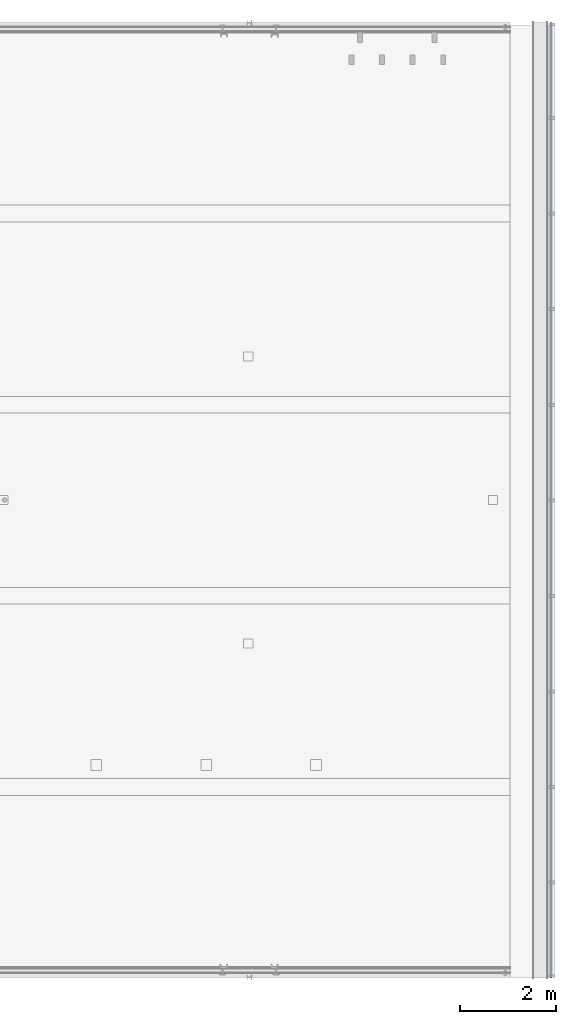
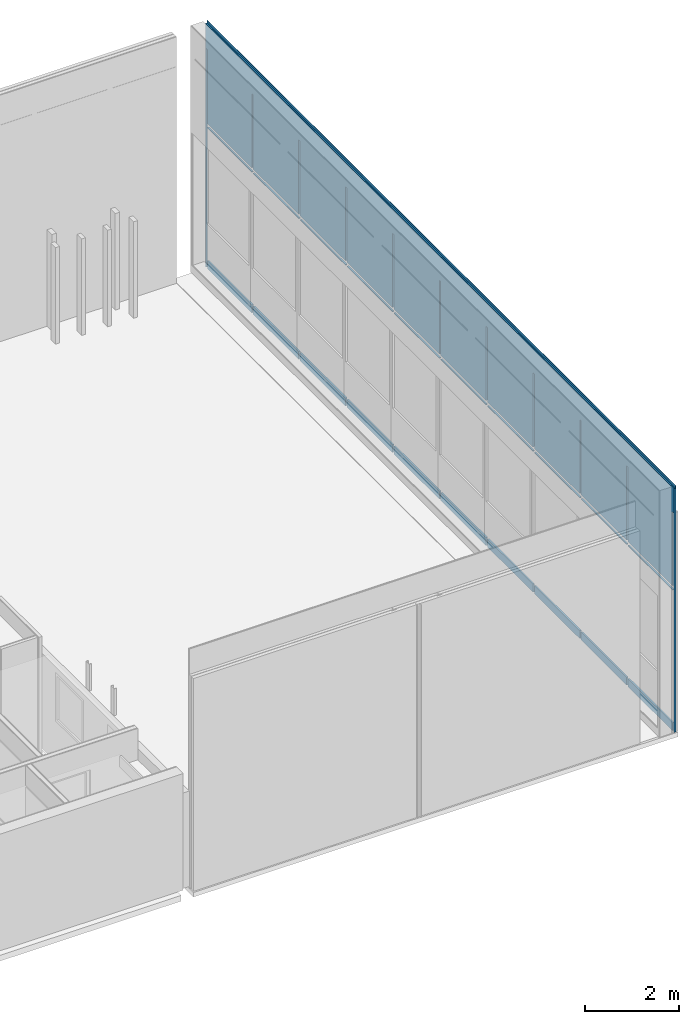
# One storey, part 21 of 35: 1 building element part, 10 openings, 1 element without a shape of its own.
"""IFC2X3 building model written with IfcOpenShell, lengths in millimetres."""

from ifc_helpers import new_model, entity, si_unit, converted_unit, derived_unit, money_unit, direction, frame, origin_with_axes, place, context, subcontext, project, spatial, faceted_brep, material, type_object, element, aggregate, save


model = new_model("IFC2X3")

# Units and contexts
model_context = context("Model", 3, precision=0.01, world=origin_with_axes(), true_north=direction((0.0, 1.0)))
body_context = subcontext(model_context, "Body", "Model", "MODEL_VIEW")
ifc_project = project(units=[si_unit("LENGTHUNIT", "METRE", prefix="MILLI"), si_unit("AREAUNIT", "SQUARE_METRE"), si_unit("VOLUMEUNIT", "CUBIC_METRE"), converted_unit("PLANEANGLEUNIT", "DEGREE", entity("IfcPlaneAngleMeasure", 0.0174532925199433), si_unit("PLANEANGLEUNIT", "RADIAN"), dimensions=[0, 0, 0, 0, 0, 0, 0]), money_unit("EUR"), converted_unit("TIMEUNIT", "Year", entity("IfcTimeMeasure", 31557600.0), si_unit("TIMEUNIT", "SECOND"), dimensions=[0, 0, 1, 0, 0, 0, 0]), si_unit("MASSUNIT", "GRAM", prefix="KILO"), si_unit("THERMODYNAMICTEMPERATUREUNIT", "DEGREE_CELSIUS"), si_unit("LUMINOUSINTENSITYUNIT", "LUMEN"), si_unit("ENERGYUNIT", "JOULE", prefix="MEGA"), derived_unit("THERMALCONDUCTANCEUNIT", [(si_unit("POWERUNIT", "WATT"), 1), (si_unit("LENGTHUNIT", "METRE"), -1), (si_unit("THERMODYNAMICTEMPERATUREUNIT", "KELVIN"), -1)]), derived_unit("SPECIFICHEATCAPACITYUNIT", [(si_unit("ENERGYUNIT", "JOULE"), 1), (si_unit("MASSUNIT", "GRAM", prefix="KILO"), -1), (si_unit("THERMODYNAMICTEMPERATUREUNIT", "KELVIN"), -1)]), derived_unit("MASSDENSITYUNIT", [(si_unit("MASSUNIT", "GRAM", prefix="KILO"), 1), (si_unit("VOLUMEUNIT", "CUBIC_METRE"), -1)])], contexts=[model_context])

# Site, building, storey
site_placement = place(None, origin_with_axes())
site = spatial("IfcSite", under=ifc_project, at=site_placement, Name="<site naam>", CompositionType="ELEMENT")
building_placement = place(site_placement, origin_with_axes())
building = spatial("IfcBuilding", under=site, at=building_placement, Name="<Naam gebouw>", CompositionType="ELEMENT")
storey_placement = place(building_placement, frame((0.0, 0.0, 6345.0), z_axis=(0.0, 0.0, 1.0), x_axis=(1.0, 0.0, 0.0)))
storey = spatial("IfcBuildingStorey", under=building, at=storey_placement, Name="02 2e tussenverdieping", CompositionType="ELEMENT", Elevation=6345.0)

# Wall, openings, building element part
wall_type = type_object("IfcWallType", Name="HSB_285 gevelbeplating 420", PredefinedType="NOTDEFINED")
wall_placement = place(storey_placement, frame((70205.99994042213, 3.585869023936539e-05, 0.0), z_axis=(0.0, 0.0, 1.0), x_axis=(0.0, 1.0, 0.0)))
wall = element("IfcWall", 1, at=wall_placement, inside=storey, type_object=wall_type, Name="21_Binnenwand_HSB_285")
opening_1_placement = place(wall_placement, frame((1029.999963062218, 0.0, 207.9999487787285), z_axis=(0.0, 0.0, 1.0), x_axis=(1.0, 0.0, 0.0)))
element("IfcOpeningElement", 2, at=opening_1_placement, cuts=wall, Name="21_BU-B-23_305", context=body_context, shape_type="Brep", body=[
    faceted_brep([(969.9999984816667, 6.000000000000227, 0.0), (969.9999984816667, 6.000000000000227, 3453.973203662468), (969.9999984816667, -1.000000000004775, 3453.973203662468), (969.9999984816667, -1.000000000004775, 0.0), (969.9999984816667, 421.0000000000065, 0.0), (969.9999984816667, 421.0000000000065, 3453.973203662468), (-969.9999984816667, 6.000000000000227, 3453.973203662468), (-969.9999984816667, -1.000000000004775, 3453.973203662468), (-969.9999984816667, -1.000000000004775, 0.0), (-969.9999984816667, 6.000000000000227, 0.0), (-969.9999984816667, 421.0000000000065, 0.0), (-969.9999984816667, 421.0000000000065, 3453.973203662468)], [[[0, 1, 2, 3]], [[1, 0, 4, 5]], [[1, 6, 7, 2]], [[7, 8, 3, 2]], [[9, 0, 3, 8]], [[0, 9, 10, 4]], [[5, 4, 10, 11]], [[6, 1, 5, 11]], [[6, 9, 8, 7]], [[9, 6, 11, 10]]]),
])
opening_2_placement = place(wall_placement, frame((4999.999964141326, 0.0, 207.9999487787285), z_axis=(0.0, 0.0, 1.0), x_axis=(1.0, 0.0, 0.0)))
element("IfcOpeningElement", 3, at=opening_2_placement, cuts=wall, Name="21_BU-B-24_305", context=body_context, shape_type="Brep", body=[
    faceted_brep([(999.9999999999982, 6.000000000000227, 0.0), (999.9999999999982, 6.000000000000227, 3453.973203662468), (999.9999999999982, -1.000000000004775, 3453.973203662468), (999.9999999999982, -1.000000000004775, 0.0), (999.9999999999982, 421.0000000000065, 0.0), (999.9999999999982, 421.0000000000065, 3453.973203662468), (-999.9999999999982, 6.000000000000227, 3453.973203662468), (-999.9999999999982, -1.000000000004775, 3453.973203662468), (-999.9999999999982, -1.000000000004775, 0.0), (-999.9999999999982, 6.000000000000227, 0.0), (-999.9999999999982, 421.0000000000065, 0.0), (-999.9999999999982, 421.0000000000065, 3453.973203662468)], [[[0, 1, 2, 3]], [[1, 0, 4, 5]], [[1, 6, 7, 2]], [[7, 8, 3, 2]], [[9, 0, 3, 8]], [[0, 9, 10, 4]], [[5, 4, 10, 11]], [[6, 1, 5, 11]], [[6, 9, 8, 7]], [[9, 6, 11, 10]]]),
])
opening_3_placement = place(wall_placement, frame((6999.999964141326, 0.0, 207.9999487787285), z_axis=(0.0, 0.0, 1.0), x_axis=(1.0, 0.0, 0.0)))
element("IfcOpeningElement", 4, at=opening_3_placement, cuts=wall, Name="21_BU-B-24_305", context=body_context, shape_type="Brep", body=[
    faceted_brep([(999.9999999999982, 6.000000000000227, 0.0), (999.9999999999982, 6.000000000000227, 3453.973203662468), (999.9999999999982, -1.000000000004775, 3453.973203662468), (999.9999999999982, -1.000000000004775, 0.0), (999.9999999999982, 421.0000000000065, 0.0), (999.9999999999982, 421.0000000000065, 3453.973203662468), (-999.9999999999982, 6.000000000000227, 3453.973203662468), (-999.9999999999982, -1.000000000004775, 3453.973203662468), (-999.9999999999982, -1.000000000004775, 0.0), (-999.9999999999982, 6.000000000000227, 0.0), (-999.9999999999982, 421.0000000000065, 0.0), (-999.9999999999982, 421.0000000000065, 3453.973203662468)], [[[0, 1, 2, 3]], [[1, 0, 4, 5]], [[1, 6, 7, 2]], [[7, 8, 3, 2]], [[9, 0, 3, 8]], [[0, 9, 10, 4]], [[5, 4, 10, 11]], [[6, 1, 5, 11]], [[6, 9, 8, 7]], [[9, 6, 11, 10]]]),
])
opening_4_placement = place(wall_placement, frame((10999.99996414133, 0.0, 207.9999487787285), z_axis=(0.0, 0.0, 1.0), x_axis=(1.0, 0.0, 0.0)))
element("IfcOpeningElement", 5, at=opening_4_placement, cuts=wall, Name="21_BU-B-24_305", context=body_context, shape_type="Brep", body=[
    faceted_brep([(999.9999999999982, 6.000000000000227, 0.0), (999.9999999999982, 6.000000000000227, 3453.973203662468), (999.9999999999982, -1.000000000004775, 3453.973203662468), (999.9999999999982, -1.000000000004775, 0.0), (999.9999999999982, 421.0000000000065, 0.0), (999.9999999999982, 421.0000000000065, 3453.973203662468), (-999.9999999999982, 6.000000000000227, 3453.973203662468), (-999.9999999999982, -1.000000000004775, 3453.973203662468), (-999.9999999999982, -1.000000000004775, 0.0), (-999.9999999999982, 6.000000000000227, 0.0), (-999.9999999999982, 421.0000000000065, 0.0), (-999.9999999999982, 421.0000000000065, 3453.973203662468)], [[[0, 1, 2, 3]], [[1, 0, 4, 5]], [[1, 6, 7, 2]], [[7, 8, 3, 2]], [[9, 0, 3, 8]], [[0, 9, 10, 4]], [[5, 4, 10, 11]], [[6, 1, 5, 11]], [[6, 9, 8, 7]], [[9, 6, 11, 10]]]),
])
opening_5_placement = place(wall_placement, frame((12999.99996414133, 0.0, 207.9999487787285), z_axis=(0.0, 0.0, 1.0), x_axis=(1.0, 0.0, 0.0)))
element("IfcOpeningElement", 6, at=opening_5_placement, cuts=wall, Name="21_BU-B-24_305", context=body_context, shape_type="Brep", body=[
    faceted_brep([(999.9999999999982, 6.000000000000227, 0.0), (999.9999999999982, 6.000000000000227, 3453.973203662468), (999.9999999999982, -1.000000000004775, 3453.973203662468), (999.9999999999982, -1.000000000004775, 0.0), (999.9999999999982, 421.0000000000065, 0.0), (999.9999999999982, 421.0000000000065, 3453.973203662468), (-999.9999999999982, 6.000000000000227, 3453.973203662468), (-999.9999999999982, -1.000000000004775, 3453.973203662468), (-999.9999999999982, -1.000000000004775, 0.0), (-999.9999999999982, 6.000000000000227, 0.0), (-999.9999999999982, 421.0000000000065, 0.0), (-999.9999999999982, 421.0000000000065, 3453.973203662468)], [[[0, 1, 2, 3]], [[1, 0, 4, 5]], [[1, 6, 7, 2]], [[7, 8, 3, 2]], [[9, 0, 3, 8]], [[0, 9, 10, 4]], [[5, 4, 10, 11]], [[6, 1, 5, 11]], [[6, 9, 8, 7]], [[9, 6, 11, 10]]]),
])
opening_6_placement = place(wall_placement, frame((8999.999964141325, 0.0, 207.9999487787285), z_axis=(0.0, 0.0, 1.0), x_axis=(1.0, 0.0, 0.0)))
element("IfcOpeningElement", 7, at=opening_6_placement, cuts=wall, Name="21_BU-B-24_305", context=body_context, shape_type="Brep", body=[
    faceted_brep([(999.9999999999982, 6.000000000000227, 0.0), (999.9999999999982, 6.000000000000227, 3453.973203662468), (999.9999999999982, -1.000000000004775, 3453.973203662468), (999.9999999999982, -1.000000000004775, 0.0), (999.9999999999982, 421.0000000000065, 0.0), (999.9999999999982, 421.0000000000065, 3453.973203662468), (-999.9999999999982, 6.000000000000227, 3453.973203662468), (-999.9999999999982, -1.000000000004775, 3453.973203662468), (-999.9999999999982, -1.000000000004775, 0.0), (-999.9999999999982, 6.000000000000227, 0.0), (-999.9999999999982, 421.0000000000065, 0.0), (-999.9999999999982, 421.0000000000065, 3453.973203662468)], [[[0, 1, 2, 3]], [[1, 0, 4, 5]], [[1, 6, 7, 2]], [[7, 8, 3, 2]], [[9, 0, 3, 8]], [[0, 9, 10, 4]], [[5, 4, 10, 11]], [[6, 1, 5, 11]], [[6, 9, 8, 7]], [[9, 6, 11, 10]]]),
])
opening_7_placement = place(wall_placement, frame((14999.99996414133, 0.0, 207.9999487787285), z_axis=(0.0, 0.0, 1.0), x_axis=(1.0, 0.0, 0.0)))
element("IfcOpeningElement", 8, at=opening_7_placement, cuts=wall, Name="21_BU-B-24_305", context=body_context, shape_type="Brep", body=[
    faceted_brep([(999.9999999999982, 6.000000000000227, 0.0), (999.9999999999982, 6.000000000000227, 3453.973203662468), (999.9999999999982, -1.000000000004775, 3453.973203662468), (999.9999999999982, -1.000000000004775, 0.0), (999.9999999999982, 421.0000000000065, 0.0), (999.9999999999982, 421.0000000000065, 3453.973203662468), (-999.9999999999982, 6.000000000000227, 3453.973203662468), (-999.9999999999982, -1.000000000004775, 3453.973203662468), (-999.9999999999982, -1.000000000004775, 0.0), (-999.9999999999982, 6.000000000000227, 0.0), (-999.9999999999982, 421.0000000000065, 0.0), (-999.9999999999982, 421.0000000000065, 3453.973203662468)], [[[0, 1, 2, 3]], [[1, 0, 4, 5]], [[1, 6, 7, 2]], [[7, 8, 3, 2]], [[9, 0, 3, 8]], [[0, 9, 10, 4]], [[5, 4, 10, 11]], [[6, 1, 5, 11]], [[6, 9, 8, 7]], [[9, 6, 11, 10]]]),
])
opening_8_placement = place(wall_placement, frame((18969.99996262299, 0.0, 207.9999487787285), z_axis=(0.0, 0.0, 1.0), x_axis=(1.0, 0.0, 0.0)))
element("IfcOpeningElement", 9, at=opening_8_placement, cuts=wall, Name="21_BU-B-23 sp_305", context=body_context, shape_type="Brep", body=[
    faceted_brep([(969.9999984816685, 6.000000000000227, 0.0), (969.9999984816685, 6.000000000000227, 3453.973203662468), (969.9999984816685, -1.000000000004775, 3453.973203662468), (969.9999984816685, -1.000000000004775, 0.0), (969.9999984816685, 421.0000000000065, 0.0), (969.9999984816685, 421.0000000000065, 3453.973203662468), (-969.9999984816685, 6.000000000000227, 3453.973203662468), (-969.9999984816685, -1.000000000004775, 3453.973203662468), (-969.9999984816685, -1.000000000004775, 0.0), (-969.9999984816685, 6.000000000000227, 0.0), (-969.9999984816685, 421.0000000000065, 0.0), (-969.9999984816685, 421.0000000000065, 3453.973203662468)], [[[0, 1, 2, 3]], [[1, 0, 4, 5]], [[1, 6, 7, 2]], [[7, 8, 3, 2]], [[9, 0, 3, 8]], [[0, 9, 10, 4]], [[5, 4, 10, 11]], [[6, 1, 5, 11]], [[6, 9, 8, 7]], [[9, 6, 11, 10]]]),
])
opening_9_placement = place(wall_placement, frame((16999.99996414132, 0.0, 207.9999487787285), z_axis=(0.0, 0.0, 1.0), x_axis=(1.0, 0.0, 0.0)))
element("IfcOpeningElement", 10, at=opening_9_placement, cuts=wall, Name="21_BU-B-24_305", context=body_context, shape_type="Brep", body=[
    faceted_brep([(1000.0, 6.000000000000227, 0.0), (1000.0, 6.000000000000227, 3453.973203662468), (1000.0, -1.000000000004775, 3453.973203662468), (1000.0, -1.000000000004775, 0.0), (1000.0, 421.0000000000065, 0.0), (1000.0, 421.0000000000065, 3453.973203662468), (-1000.0, 6.000000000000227, 3453.973203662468), (-1000.0, -1.000000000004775, 3453.973203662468), (-1000.0, -1.000000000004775, 0.0), (-1000.0, 6.000000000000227, 0.0), (-1000.0, 421.0000000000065, 0.0), (-1000.0, 421.0000000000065, 3453.973203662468)], [[[0, 1, 2, 3]], [[1, 0, 4, 5]], [[1, 6, 7, 2]], [[7, 8, 3, 2]], [[9, 0, 3, 8]], [[0, 9, 10, 4]], [[5, 4, 10, 11]], [[6, 1, 5, 11]], [[6, 9, 8, 7]], [[9, 6, 11, 10]]]),
])
opening_10_placement = place(wall_placement, frame((2999.999964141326, 0.0, 207.9999487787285), z_axis=(0.0, 0.0, 1.0), x_axis=(1.0, 0.0, 0.0)))
element("IfcOpeningElement", 11, at=opening_10_placement, cuts=wall, Name="21_BU-B-24_305", context=body_context, shape_type="Brep", body=[
    faceted_brep([(999.9999999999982, 6.000000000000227, 0.0), (999.9999999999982, 6.000000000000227, 3453.973203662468), (999.9999999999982, -1.000000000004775, 3453.973203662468), (999.9999999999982, -1.000000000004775, 0.0), (999.9999999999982, 421.0000000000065, 0.0), (999.9999999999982, 421.0000000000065, 3453.973203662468), (-999.9999999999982, 6.000000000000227, 3453.973203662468), (-999.9999999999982, -1.000000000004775, 3453.973203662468), (-999.9999999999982, -1.000000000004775, 0.0), (-999.9999999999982, 6.000000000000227, 0.0), (-999.9999999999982, 421.0000000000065, 0.0), (-999.9999999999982, 421.0000000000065, 3453.973203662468)], [[[0, 1, 2, 3]], [[1, 0, 4, 5]], [[1, 6, 7, 2]], [[7, 8, 3, 2]], [[9, 0, 3, 8]], [[0, 9, 10, 4]], [[5, 4, 10, 11]], [[6, 1, 5, 11]], [[6, 9, 8, 7]], [[9, 6, 11, 10]]]),
])
ifc_material = material(Name="metaal - Aluminium gevelplaat")
building_element_part_placement = place(wall_placement, origin_with_axes())
building_element_part = element("IfcBuildingElementPart", 12, at=building_element_part_placement, material=ifc_material, Name="metaal - Aluminium gevelplaat", context=body_context, shape_type="Brep", body=[
    faceted_brep([(1969.999964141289, 0.0, 0.0), (1969.999964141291, 0.0, 3684.316325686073), (69.9999645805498, 0.0, 3684.316325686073), (69.9999645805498, 0.0, 0.0), (1969.999964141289, 40.00000000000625, 3684.316325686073), (1969.999964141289, 40.00000000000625, 0.0), (69.9999645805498, 40.00000000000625, 3684.316325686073), (69.9999645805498, 40.00000000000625, 0.0)], [[[0, 1, 2, 3]], [[4, 1, 0, 5]], [[1, 4, 6, 2]], [[3, 2, 6, 7]], [[5, 0, 3, 7]], [[4, 5, 7, 6]]]),
    faceted_brep([(19929.9999637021, 0.0, 0.0), (19929.9999637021, 0.0, 3684.316325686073), (18029.99996414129, 0.0, 3684.316325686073), (18029.99996414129, 0.0, 0.0), (19929.9999637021, 40.00000000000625, 3684.316325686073), (19929.9999637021, 40.00000000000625, 0.0), (18029.99996414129, 40.00000000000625, 3684.316325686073), (18029.99996414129, 40.00000000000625, 0.0)], [[[0, 1, 2, 3]], [[4, 1, 0, 5]], [[1, 4, 6, 2]], [[3, 2, 6, 7]], [[5, 0, 3, 7]], [[4, 5, 7, 6]]]),
    faceted_brep([(3969.999963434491, 0.0, 0.0), (3969.999963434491, 0.0, 3684.316325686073), (2029.99996414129, 0.0, 3684.316325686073), (2029.999964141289, 0.0, 0.0), (3969.999963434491, 40.00000000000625, 3684.316325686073), (3969.999963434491, 40.00000000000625, 0.0), (2029.999964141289, 40.00000000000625, 3684.316325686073), (2029.999964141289, 40.00000000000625, 0.0)], [[[0, 1, 2, 3]], [[4, 1, 0, 5]], [[1, 4, 6, 2]], [[3, 2, 6, 7]], [[5, 0, 3, 7]], [[4, 5, 7, 6]]]),
    faceted_brep([(5969.999964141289, 0.0, 0.0), (5969.999964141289, 0.0, 3684.316325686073), (4029.999963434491, 0.0, 3684.316325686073), (4029.999963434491, 0.0, 0.0), (5969.999964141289, 40.00000000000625, 3684.316325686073), (5969.999964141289, 40.00000000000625, 0.0), (4029.999963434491, 40.00000000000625, 3684.316325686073), (4029.999963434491, 40.00000000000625, 0.0)], [[[0, 1, 2, 3]], [[4, 1, 0, 5]], [[1, 4, 6, 2]], [[3, 2, 6, 7]], [[5, 0, 3, 7]], [[4, 5, 7, 6]]]),
    faceted_brep([(7969.999963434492, 0.0, 0.0), (7969.999963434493, 0.0, 3684.316325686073), (6029.99996414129, 0.0, 3684.316325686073), (6029.999964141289, 0.0, 0.0), (7969.999963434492, 40.00000000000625, 3684.316325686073), (7969.999963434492, 40.00000000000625, 0.0), (6029.999964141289, 40.00000000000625, 3684.316325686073), (6029.999964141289, 40.00000000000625, 0.0)], [[[0, 1, 2, 3]], [[4, 1, 0, 5]], [[1, 4, 6, 2]], [[3, 2, 6, 7]], [[5, 0, 3, 7]], [[4, 5, 7, 6]]]),
    faceted_brep([(9966.999964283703, 0.0, 0.0), (9966.999964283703, 0.0, 3684.316325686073), (8029.999963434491, 0.0, 3684.316325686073), (8029.999963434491, 0.0, 0.0), (9966.999964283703, 40.00000000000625, 3684.316325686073), (9966.999964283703, 40.00000000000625, 0.0), (8029.999963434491, 40.00000000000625, 3684.316325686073), (8029.999963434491, 40.00000000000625, 0.0)], [[[0, 1, 2, 3]], [[4, 1, 0, 5]], [[1, 4, 6, 2]], [[3, 2, 6, 7]], [[5, 0, 3, 7]], [[4, 5, 7, 6]]]),
    faceted_brep([(11966.99996428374, 0.0, 0.0), (11966.99996428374, 0.0, 3684.316325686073), (10026.9999642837, 0.0, 3684.316325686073), (10026.9999642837, 0.0, 0.0), (11966.99996428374, 40.00000000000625, 3684.316325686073), (11966.99996428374, 40.00000000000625, 0.0), (10026.9999642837, 40.00000000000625, 3684.316325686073), (10026.9999642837, 40.00000000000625, 0.0)], [[[0, 1, 2, 3]], [[4, 1, 0, 5]], [[1, 4, 6, 2]], [[3, 2, 6, 7]], [[5, 0, 3, 7]], [[4, 5, 7, 6]]]),
    faceted_brep([(13969.99996414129, 0.0, 0.0), (13969.99996414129, 0.0, 3684.316325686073), (12026.99996428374, 0.0, 3684.316325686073), (12026.99996428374, 0.0, 0.0), (13969.99996414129, 40.00000000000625, 3684.316325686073), (13969.99996414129, 40.00000000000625, 0.0), (12026.99996428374, 40.00000000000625, 3684.316325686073), (12026.99996428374, 40.00000000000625, 0.0)], [[[0, 1, 2, 3]], [[4, 1, 0, 5]], [[1, 4, 6, 2]], [[3, 2, 6, 7]], [[5, 0, 3, 7]], [[4, 5, 7, 6]]]),
    faceted_brep([(15969.99996414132, 0.0, 0.0), (15969.99996414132, 0.0, 3684.316325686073), (14029.99996414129, 0.0, 3684.316325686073), (14029.99996414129, 0.0, 0.0), (15969.99996414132, 40.00000000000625, 3684.316325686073), (15969.99996414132, 40.00000000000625, 0.0), (14029.99996414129, 40.00000000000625, 3684.316325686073), (14029.99996414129, 40.00000000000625, 0.0)], [[[0, 1, 2, 3]], [[4, 1, 0, 5]], [[1, 4, 6, 2]], [[3, 2, 6, 7]], [[5, 0, 3, 7]], [[4, 5, 7, 6]]]),
    faceted_brep([(15969.99996414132, 0.0, 3779.316326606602), (15969.99996414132, 0.0, 5715.00000396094), (16029.99996414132, 0.0, 5715.00000396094), (16029.99996414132, 0.0, 3779.316326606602), (17969.99996414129, 0.0, 3779.316326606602), (17969.99996414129, 0.0, 5715.00000396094), (18029.99996414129, 0.0, 5715.00000396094), (18029.99996414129, 0.0, 3779.316326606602), (19929.9999637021, 0.0, 3779.316326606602), (19929.9999637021, 0.0, 5715.00000396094), (19989.9999637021, 0.0, 5715.00000396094), (19989.9999637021, 0.0, 0.0), (19999.99996414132, 0.0, 0.0), (19999.99996414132, 0.0, 6425.0), (0.0, 0.0, 6425.0), (0.0, 0.0, 0.0), (9.999964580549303, 0.0, 0.0), (9.999964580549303, 0.0, 5715.00000396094), (69.9999645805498, 0.0, 5715.00000396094), (69.9999645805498, 0.0, 3779.316326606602), (1969.999964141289, 0.0, 3779.316326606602), (1969.999964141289, 0.0, 5715.00000396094), (2029.999964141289, 0.0, 5715.00000396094), (2029.999964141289, 0.0, 3779.316326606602), (3969.999963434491, 0.0, 3779.316326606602), (3969.999963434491, 0.0, 5715.00000396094), (4029.999963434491, 0.0, 5715.00000396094), (4029.999963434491, 0.0, 3779.316326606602), (5969.999964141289, 0.0, 3779.316326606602), (5969.999964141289, 0.0, 5715.00000396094), (6029.999964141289, 0.0, 5715.00000396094), (6029.999964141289, 0.0, 3779.316326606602), (7969.999963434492, 0.0, 3779.316326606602), (7969.999963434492, 0.0, 5715.00000396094), (8029.999963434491, 0.0, 5715.00000396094), (8029.999963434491, 0.0, 3779.316326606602), (9966.999964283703, 0.0, 3779.316326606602), (9966.999964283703, 0.0, 5715.00000396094), (10026.9999642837, 0.0, 5715.00000396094), (10026.9999642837, 0.0, 3779.316326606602), (11966.99996428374, 0.0, 3779.316326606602), (11966.99996428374, 0.0, 5715.00000396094), (12026.99996428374, 0.0, 5715.00000396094), (12026.99996428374, 0.0, 3779.316326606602), (13969.99996414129, 0.0, 3779.316326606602), (13969.99996414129, 0.0, 5715.00000396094), (14029.99996414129, 0.0, 5715.00000396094), (14029.99996414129, 0.0, 3779.316326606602), (15969.99996414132, 40.00000000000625, 3779.316326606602), (15969.99996414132, 40.00000000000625, 5715.00000396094), (16029.99996414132, 40.00000000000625, 5715.00000396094), (16029.99996414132, 40.00000000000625, 3779.316326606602), (17969.99996414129, 40.00000000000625, 3779.316326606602), (17969.99996414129, 40.00000000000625, 5715.00000396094), (18029.99996414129, 40.00000000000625, 5715.00000396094), (18029.99996414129, 40.00000000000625, 3779.316326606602), (19929.9999637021, 40.00000000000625, 3779.316326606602), (19929.9999637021, 40.00000000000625, 5715.00000396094), (19989.9999637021, 40.00000000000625, 5715.00000396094), (19989.9999637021, 40.00000000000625, 0.0), (19999.99996414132, 40.00000000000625, 0.0), (19999.99996414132, 40.00000000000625, 6354.999999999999), (19999.99996414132, 5.999942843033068, 6354.999999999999), (19999.99996414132, 5.999942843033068, 6425.0), (0.0, 5.999942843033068, 6425.0), (0.0, 5.999942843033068, 6354.999999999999), (0.0, 40.00000000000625, 6354.999999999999), (0.0, 40.00000000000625, 0.0), (9.999964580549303, 40.00000000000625, 0.0), (9.999964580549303, 40.00000000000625, 5715.00000396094), (69.9999645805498, 40.00000000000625, 5715.00000396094), (69.9999645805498, 40.00000000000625, 3779.316326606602), (1969.999964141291, 40.00000000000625, 3779.316326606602), (1969.999964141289, 40.00000000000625, 5715.00000396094), (2029.999964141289, 40.00000000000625, 5715.00000396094), (2029.99996414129, 40.00000000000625, 3779.316326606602), (3969.999963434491, 40.00000000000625, 3779.316326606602), (3969.999963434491, 40.00000000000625, 5715.00000396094), (4029.999963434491, 40.00000000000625, 5715.00000396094), (4029.999963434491, 40.00000000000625, 3779.316326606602), (5969.999964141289, 40.00000000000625, 3779.316326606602), (5969.999964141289, 40.00000000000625, 5715.00000396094), (6029.999964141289, 40.00000000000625, 5715.00000396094), (6029.99996414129, 40.00000000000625, 3779.316326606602), (7969.999963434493, 40.00000000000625, 3779.316326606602), (7969.999963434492, 40.00000000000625, 5715.00000396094), (8029.999963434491, 40.00000000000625, 5715.00000396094), (8029.999963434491, 40.00000000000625, 3779.316326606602), (9966.999964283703, 40.00000000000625, 3779.316326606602), (9966.999964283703, 40.00000000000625, 5715.00000396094), (10026.9999642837, 40.00000000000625, 5715.00000396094), (10026.9999642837, 40.00000000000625, 3779.316326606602), (11966.99996428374, 40.00000000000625, 3779.316326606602), (11966.99996428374, 40.00000000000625, 5715.00000396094), (12026.99996428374, 40.00000000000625, 5715.00000396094), (12026.99996428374, 40.00000000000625, 3779.316326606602), (13969.99996414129, 40.00000000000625, 3779.316326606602), (13969.99996414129, 40.00000000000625, 5715.00000396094), (14029.99996414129, 40.00000000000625, 5715.00000396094), (14029.99996414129, 40.00000000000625, 3779.316326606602)], [[[0, 1, 2, 3, 4, 5, 6, 7, 8, 9, 10, 11, 12, 13, 14, 15, 16, 17, 18, 19, 20, 21, 22, 23, 24, 25, 26, 27, 28, 29, 30, 31, 32, 33, 34, 35, 36, 37, 38, 39, 40, 41, 42, 43, 44, 45, 46, 47]], [[1, 0, 48, 49]], [[2, 1, 49, 50]], [[3, 2, 50, 51]], [[3, 51, 52, 4]], [[5, 4, 52, 53]], [[6, 5, 53, 54]], [[7, 6, 54, 55]], [[56, 8, 7, 55]], [[9, 8, 56, 57]], [[10, 9, 57, 58]], [[11, 10, 58, 59]], [[11, 59, 60, 12]], [[60, 61, 62, 63, 13, 12]], [[13, 63, 64, 14]], [[64, 65, 66, 67, 15, 14]], [[68, 16, 15, 67]], [[17, 16, 68, 69]], [[18, 17, 69, 70]], [[19, 18, 70, 71]], [[72, 20, 19, 71]], [[21, 20, 72, 73]], [[22, 21, 73, 74]], [[23, 22, 74, 75]], [[76, 24, 23, 75]], [[25, 24, 76, 77]], [[26, 25, 77, 78]], [[27, 26, 78, 79]], [[80, 28, 27, 79]], [[29, 28, 80, 81]], [[30, 29, 81, 82]], [[31, 30, 82, 83]], [[84, 32, 31, 83]], [[33, 32, 84, 85]], [[34, 33, 85, 86]], [[35, 34, 86, 87]], [[88, 36, 35, 87]], [[37, 36, 88, 89]], [[38, 37, 89, 90]], [[39, 38, 90, 91]], [[92, 40, 39, 91]], [[41, 40, 92, 93]], [[42, 41, 93, 94]], [[43, 42, 94, 95]], [[96, 44, 43, 95]], [[45, 44, 96, 97]], [[46, 45, 97, 98]], [[47, 46, 98, 99]], [[48, 0, 47, 99]], [[49, 48, 99, 98, 97, 96, 95, 94, 93, 92, 91, 90, 89, 88, 87, 86, 85, 84, 83, 82, 81, 80, 79, 78, 77, 76, 75, 74, 73, 72, 71, 70, 69, 68, 67, 66, 61, 60, 59, 58, 57, 56, 55, 54, 53, 52, 51, 50]], [[65, 62, 61, 66]], [[65, 64, 63, 62]]]),
    faceted_brep([(16029.99996414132, 40.00000000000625, 3684.316325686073), (16029.99996414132, 0.0, 3684.316325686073), (17969.99996414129, 0.0, 3684.316325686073), (17969.99996414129, 40.00000000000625, 3684.316325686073), (16029.99996414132, 0.0, 0.0), (16029.99996414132, 40.00000000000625, 0.0), (17969.99996414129, 0.0, 0.0), (17969.99996414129, 40.00000000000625, 0.0)], [[[0, 1, 2, 3]], [[4, 1, 0, 5]], [[1, 4, 6, 2]], [[3, 2, 6, 7]], [[5, 0, 3, 7]], [[4, 5, 7, 6]]]),
])
aggregate(wall, [building_element_part])

save(model, "model.ifc")
